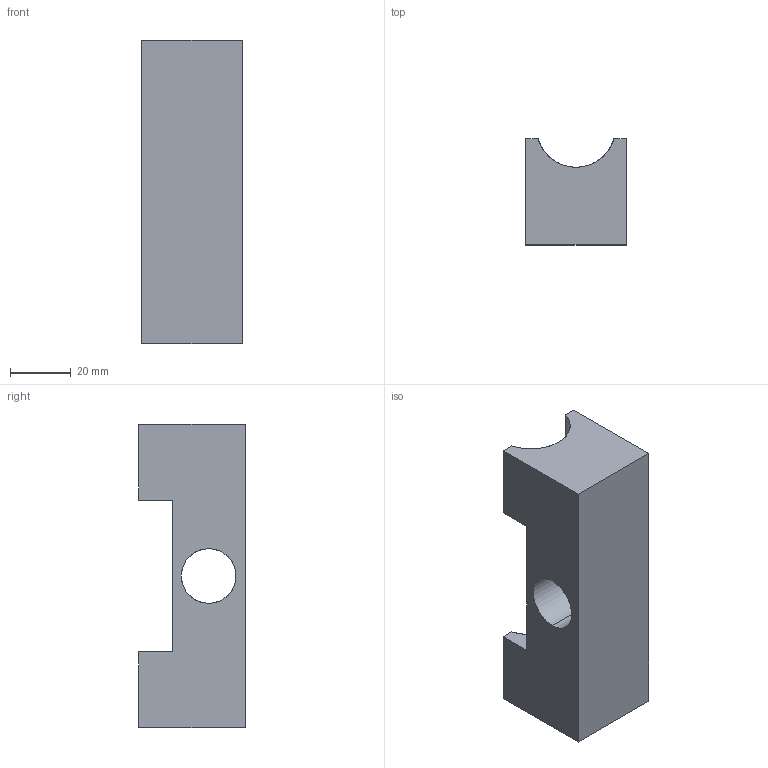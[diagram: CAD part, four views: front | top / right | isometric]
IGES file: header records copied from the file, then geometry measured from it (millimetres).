
Start section: SolidWorks IGES file using analytic representation for surfaces
Global section: file name: C:\Users\Dieudonné\Desktop\patin guidage 25.IGS; native system: SolidWorks 2016; preprocessor: SolidWorks 2016; author: Dieudonné; date: 160216.130834; units: millimetre
Bounding box: 33 x 35 x 100 mm (x, y, z)
Surface area: 16628.2 mm2 (no closed solid volume)
Topology: 0 solids, 0 shells, 16 faces, 204 edges, 204 vertices
Faces by surface type: bspline 12, revolution 4
